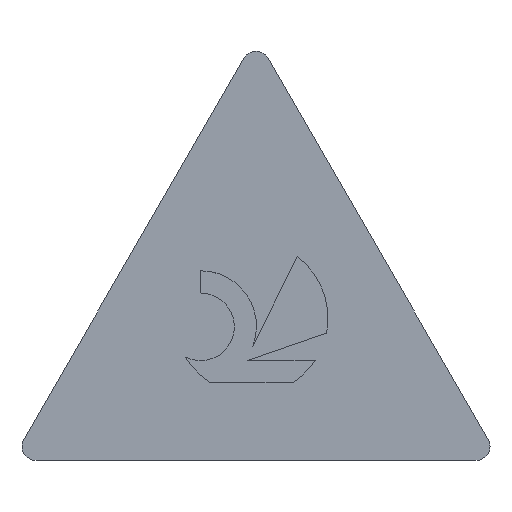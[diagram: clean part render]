
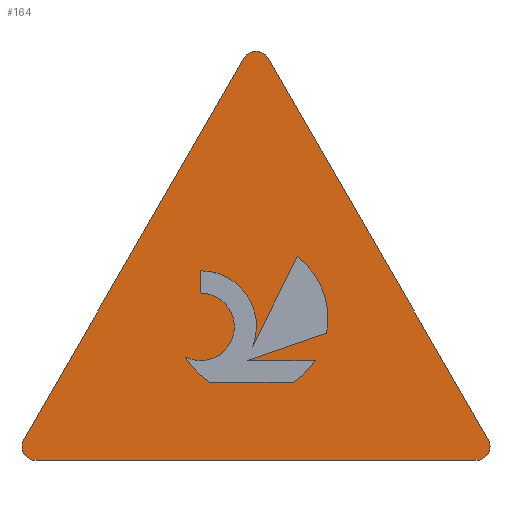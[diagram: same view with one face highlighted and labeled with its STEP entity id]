
A CAD part, top view. The second image highlights one B-rep face of the part: STEP entity #164.
In plain terms, the highlighted planar face has unit normal (0, 0, 1).
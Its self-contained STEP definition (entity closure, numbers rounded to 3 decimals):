
#136=VERTEX_POINT('',#376);
#140=VERTEX_POINT('',#380);
#144=VERTEX_POINT('',#384);
#156=EDGE_CURVE('',#262,#136,#399,.T.);
#158=EDGE_CURVE('',#252,#144,#401,.T.);
#164=ADVANCED_FACE('',(#408,#409),#410,.T.);
#168=EDGE_CURVE('',#280,#324,#414,.T.);
#172=VERTEX_POINT('',#418);
#176=VERTEX_POINT('',#422);
#190=VERTEX_POINT('',#438);
#204=EDGE_CURVE('',#284,#252,#455,.T.);
#228=VERTEX_POINT('',#484);
#232=EDGE_CURVE('',#302,#278,#488,.T.);
#240=EDGE_CURVE('',#176,#302,#497,.T.);
#244=EDGE_CURVE('',#346,#190,#501,.T.);
#252=VERTEX_POINT('',#510);
#256=EDGE_CURVE('',#144,#276,#514,.T.);
#262=VERTEX_POINT('',#520);
#268=EDGE_CURVE('',#190,#262,#528,.T.);
#276=VERTEX_POINT('',#536);
#278=VERTEX_POINT('',#538);
#280=VERTEX_POINT('',#540);
#284=VERTEX_POINT('',#544);
#300=EDGE_CURVE('',#324,#284,#560,.T.);
#302=VERTEX_POINT('',#562);
#304=EDGE_CURVE('',#276,#346,#564,.T.);
#310=EDGE_CURVE('',#140,#280,#570,.T.);
#312=VERTEX_POINT('',#572);
#314=EDGE_CURVE('',#172,#228,#574,.T.);
#324=VERTEX_POINT('',#584);
#346=VERTEX_POINT('',#610);
#348=EDGE_CURVE('',#228,#176,#612,.T.);
#352=EDGE_CURVE('',#136,#140,#616,.T.);
#356=EDGE_CURVE('',#278,#312,#620,.T.);
#358=EDGE_CURVE('',#312,#172,#622,.T.);
#376=CARTESIAN_POINT('',(2.445,1.456,0.0));
#380=CARTESIAN_POINT('',(2.871,2.306,0.0));
#384=CARTESIAN_POINT('',(4.429,1.793,0.0));
#399=CIRCLE('',#656,1.077);
#401=CIRCLE('',#659,1.077);
#408=FACE_BOUND('',#666,.T.);
#409=FACE_OUTER_BOUND('',#667,.T.);
#410=PLANE('',#668);
#414=LINE('',#673,#674);
#418=CARTESIAN_POINT('',(6.528,0.0,0.0));
#422=CARTESIAN_POINT('',(3.61,5.654,0.0));
#438=CARTESIAN_POINT('',(3.96,1.1,0.0));
#455=LINE('',#732,#733);
#484=CARTESIAN_POINT('',(6.701,0.3,0.0));
#488=LINE('',#777,#778);
#497=CIRCLE('',#790,0.2);
#501=CIRCLE('',#797,1.077);
#510=CARTESIAN_POINT('',(4.014,2.869,0.0));
#514=LINE('',#812,#813);
#520=CARTESIAN_POINT('',(2.786,1.1,0.0));
#528=LINE('',#832,#833);
#536=CARTESIAN_POINT('',(3.318,1.407,0.0));
#538=CARTESIAN_POINT('',(0.173,0.3,0.0));
#540=CARTESIAN_POINT('',(2.655,2.356,0.0));
#544=CARTESIAN_POINT('',(3.391,1.605,0.0));
#560=CIRCLE('',#878,0.783);
#562=CARTESIAN_POINT('',(3.264,5.653,0.0));
#564=LINE('',#883,#884);
#570=CIRCLE('',#895,0.476);
#572=CARTESIAN_POINT('',(0.346,0.0,0.0));
#574=CIRCLE('',#900,0.2);
#584=CARTESIAN_POINT('',(2.655,2.669,0.0));
#610=CARTESIAN_POINT('',(4.27,1.407,0.0));
#612=LINE('',#949,#950);
#616=CIRCLE('',#957,0.476);
#620=CIRCLE('',#964,0.2);
#622=LINE('',#967,#968);
#656=AXIS2_PLACEMENT_3D('',#1000,#1001,#1002);
#659=AXIS2_PLACEMENT_3D('',#1003,#1004,#1005);
#666=EDGE_LOOP('',(#1015,#1016,#1017,#1018,#1019,#1020,#1021,#1022,#1023,#1024,#1025));
#667=EDGE_LOOP('',(#1026,#1027,#1028,#1029,#1030,#1031));
#668=AXIS2_PLACEMENT_3D('',#1032,#1033,#1034);
#673=CARTESIAN_POINT('',(2.655,2.327,0.0));
#674=VECTOR('',#1035,1.0);
#732=CARTESIAN_POINT('',(3.782,2.399,0.0));
#733=VECTOR('',#1083,1.0);
#777=CARTESIAN_POINT('',(3.264,5.654,0.0));
#778=VECTOR('',#1136,1.0);
#790=AXIS2_PLACEMENT_3D('',#1146,#1147,#1148);
#797=AXIS2_PLACEMENT_3D('',#1150,#1151,#1152);
#812=CARTESIAN_POINT('',(3.461,1.456,0.0));
#813=VECTOR('',#1164,1.0);
#832=CARTESIAN_POINT('',(3.111,1.1,0.0));
#833=VECTOR('',#1182,1.0);
#878=AXIS2_PLACEMENT_3D('',#1193,#1194,#1195);
#883=CARTESIAN_POINT('',(3.854,1.407,0.0));
#884=VECTOR('',#1196,1.0);
#895=AXIS2_PLACEMENT_3D('',#1199,#1200,#1201);
#900=AXIS2_PLACEMENT_3D('',#1202,#1203,#1204);
#949=CARTESIAN_POINT('',(6.701,0.3,0.0));
#950=VECTOR('',#1245,1.0);
#957=AXIS2_PLACEMENT_3D('',#1247,#1248,#1249);
#964=AXIS2_PLACEMENT_3D('',#1251,#1252,#1253);
#967=CARTESIAN_POINT('',(0.346,0.0,0.0));
#968=VECTOR('',#1254,1.0);
#1000=CARTESIAN_POINT('',(3.373,2.003,0.0));
#1001=DIRECTION('',(-0.0,0.0,-1.0));
#1002=DIRECTION('',(-0.861,-0.508,0.0));
#1003=CARTESIAN_POINT('',(3.373,2.003,0.0));
#1004=DIRECTION('',(0.0,-0.0,-1.0));
#1005=DIRECTION('',(0.981,-0.196,0.0));
#1015=ORIENTED_EDGE('',*,*,#168,.T.);
#1016=ORIENTED_EDGE('',*,*,#300,.T.);
#1017=ORIENTED_EDGE('',*,*,#204,.T.);
#1018=ORIENTED_EDGE('',*,*,#158,.T.);
#1019=ORIENTED_EDGE('',*,*,#256,.T.);
#1020=ORIENTED_EDGE('',*,*,#304,.T.);
#1021=ORIENTED_EDGE('',*,*,#244,.T.);
#1022=ORIENTED_EDGE('',*,*,#268,.T.);
#1023=ORIENTED_EDGE('',*,*,#156,.T.);
#1024=ORIENTED_EDGE('',*,*,#352,.T.);
#1025=ORIENTED_EDGE('',*,*,#310,.T.);
#1026=ORIENTED_EDGE('',*,*,#358,.T.);
#1027=ORIENTED_EDGE('',*,*,#314,.T.);
#1028=ORIENTED_EDGE('',*,*,#348,.T.);
#1029=ORIENTED_EDGE('',*,*,#240,.T.);
#1030=ORIENTED_EDGE('',*,*,#232,.T.);
#1031=ORIENTED_EDGE('',*,*,#356,.T.);
#1032=CARTESIAN_POINT('',(3.437,1.985,0.0));
#1033=DIRECTION('',(0.0,0.0,1.0));
#1034=DIRECTION('',(1.0,0.0,0.0));
#1035=DIRECTION('',(0.0,1.0,0.0));
#1083=DIRECTION('',(0.442,0.897,-0.0));
#1136=DIRECTION('',(-0.5,-0.866,0.0));
#1146=CARTESIAN_POINT('',(3.437,5.553,0.0));
#1147=DIRECTION('',(0.0,-0.0,1.0));
#1148=DIRECTION('',(0.866,0.5,0.0));
#1150=CARTESIAN_POINT('',(3.373,2.003,0.0));
#1151=DIRECTION('',(0.0,-0.0,-1.0));
#1152=DIRECTION('',(0.545,-0.838,0.0));
#1164=DIRECTION('',(-0.945,-0.328,0.0));
#1182=DIRECTION('',(-1.0,0.0,0.0));
#1193=CARTESIAN_POINT('',(2.661,1.887,0.0));
#1194=DIRECTION('',(0.0,-0.0,-1.0));
#1195=DIRECTION('',(0.933,-0.359,0.0));
#1196=DIRECTION('',(1.0,0.0,0.0));
#1199=CARTESIAN_POINT('',(2.658,1.881,0.0));
#1200=DIRECTION('',(0.0,0.0,1.0));
#1201=DIRECTION('',(-0.447,-0.894,0.0));
#1202=CARTESIAN_POINT('',(6.528,0.2,0.0));
#1203=DIRECTION('',(0.0,0.0,1.0));
#1204=DIRECTION('',(0.,-1.0,0.0));
#1245=DIRECTION('',(-0.5,0.866,0.0));
#1247=CARTESIAN_POINT('',(2.658,1.881,0.0));
#1248=DIRECTION('',(0.0,0.0,1.0));
#1249=DIRECTION('',(-0.447,-0.894,0.0));
#1251=CARTESIAN_POINT('',(0.346,0.2,0.0));
#1252=DIRECTION('',(0.0,0.0,1.0));
#1253=DIRECTION('',(-0.866,0.5,0.0));
#1254=DIRECTION('',(1.0,0.0,0.0));
